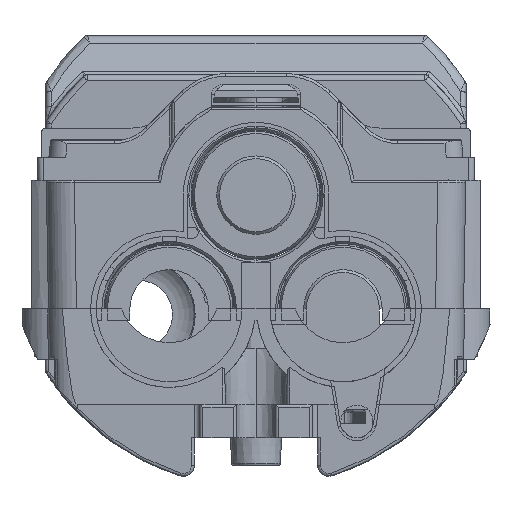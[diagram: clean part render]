
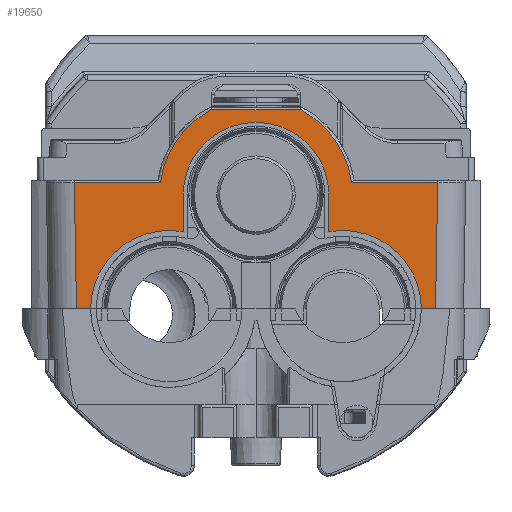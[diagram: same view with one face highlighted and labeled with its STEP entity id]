
A CAD part, left-side view. The second image highlights one B-rep face of the part: STEP entity #19650.
In plain terms, the highlighted planar face has unit normal (-1, 0, 0).
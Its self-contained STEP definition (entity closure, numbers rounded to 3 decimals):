
#1633 = CIRCLE ( 'NONE', #47211, 13. ) ;
#1666 = DIRECTION ( 'NONE',  ( 0., -1., 0. ) ) ;
#2320 = EDGE_CURVE ( 'NONE', #25156, #8274, #47895, .T. ) ;
#2332 = CARTESIAN_POINT ( 'NONE',  ( -325.383, -32.028, 34. ) ) ;
#3280 = CARTESIAN_POINT ( 'NONE',  ( -325.383, 29.5, 34. ) ) ;
#4267 = ORIENTED_EDGE ( 'NONE', *, *, #37524, .T. ) ;
#5288 = AXIS2_PLACEMENT_3D ( 'NONE', #26740, #59016, #31455 ) ;
#5761 = CARTESIAN_POINT ( 'NONE',  ( -325.383, -13., 47.775 ) ) ;
#6100 = LINE ( 'NONE', #6973, #54238 ) ;
#6867 = EDGE_CURVE ( 'NONE', #48511, #18327, #16153, .T. ) ;
#6973 = CARTESIAN_POINT ( 'NONE',  ( -325.383, -13., 54.3 ) ) ;
#7311 = CARTESIAN_POINT ( 'NONE',  ( -325.383, 13., 47.775 ) ) ;
#7689 = EDGE_CURVE ( 'NONE', #8274, #57398, #37474, .T. ) ;
#8274 = VERTEX_POINT ( 'NONE', #2332 ) ;
#8594 = LINE ( 'NONE', #30721, #44587 ) ;
#8894 = LINE ( 'NONE', #56791, #56962 ) ;
#9221 = EDGE_CURVE ( 'NONE', #57398, #48511, #8594, .T. ) ;
#9537 = VERTEX_POINT ( 'NONE', #51045 ) ;
#10774 = ORIENTED_EDGE ( 'NONE', *, *, #38698, .T. ) ;
#11297 = DIRECTION ( 'NONE',  ( 0., -0.017, 1. ) ) ;
#11607 = DIRECTION ( 'NONE',  ( -1., 0., 0. ) ) ;
#13104 = VECTOR ( 'NONE', #21498, 1000. ) ;
#15879 = DIRECTION ( 'NONE',  ( 0., -1., 0. ) ) ;
#16039 = VERTEX_POINT ( 'NONE', #5761 ) ;
#16153 = CIRCLE ( 'NONE', #20490, 17.2 ) ;
#16551 = CARTESIAN_POINT ( 'NONE',  ( -325.383, 0., 54.3 ) ) ;
#16983 = CARTESIAN_POINT ( 'NONE',  ( -325.383, 32.421, 56.5 ) ) ;
#17004 = DIRECTION ( 'NONE',  ( -1., 0., 0. ) ) ;
#17144 = ORIENTED_EDGE ( 'NONE', *, *, #35482, .F. ) ;
#17474 = EDGE_CURVE ( 'NONE', #9537, #27987, #33368, .T. ) ;
#18327 = VERTEX_POINT ( 'NONE', #38653 ) ;
#19650 = ADVANCED_FACE ( 'NONE', ( #34607 ), #34713, .F. ) ;
#20269 = AXIS2_PLACEMENT_3D ( 'NONE', #45119, #17004, #49687 ) ;
#20490 = AXIS2_PLACEMENT_3D ( 'NONE', #16551, #49234, #21334 ) ;
#21334 = DIRECTION ( 'NONE',  ( 0., 0., -1. ) ) ;
#21498 = DIRECTION ( 'NONE',  ( 0., -0.017, -1. ) ) ;
#21698 = DIRECTION ( 'NONE',  ( 0., 1., 0. ) ) ;
#23773 = VERTEX_POINT ( 'NONE', #52625 ) ;
#25156 = VERTEX_POINT ( 'NONE', #59286 ) ;
#25534 = DIRECTION ( 'NONE',  ( 1., 0., 0. ) ) ;
#25641 = LINE ( 'NONE', #33888, #48795 ) ;
#25687 = CARTESIAN_POINT ( 'NONE',  ( -325.383, -32.74, 74.782 ) ) ;
#25785 = LINE ( 'NONE', #53953, #13104 ) ;
#25836 = DIRECTION ( 'NONE',  ( 0., 0., 1. ) ) ;
#26085 = AXIS2_PLACEMENT_3D ( 'NONE', #39828, #11607, #44482 ) ;
#26514 = VERTEX_POINT ( 'NONE', #59081 ) ;
#26740 = CARTESIAN_POINT ( 'NONE',  ( -325.383, 15.5, 34. ) ) ;
#26745 = EDGE_LOOP ( 'NONE', ( #4267, #31286, #10774, #27428, #27969, #28756, #17144, #43918, #55170, #52196, #45353, #37859, #32812, #45555 ) ) ;
#27428 = ORIENTED_EDGE ( 'NONE', *, *, #17474, .T. ) ;
#27521 = DIRECTION ( 'NONE',  ( -1., 0., 0. ) ) ;
#27969 = ORIENTED_EDGE ( 'NONE', *, *, #48786, .F. ) ;
#27987 = VERTEX_POINT ( 'NONE', #3280 ) ;
#28384 = VERTEX_POINT ( 'NONE', #16983 ) ;
#28756 = ORIENTED_EDGE ( 'NONE', *, *, #46097, .F. ) ;
#30017 = CARTESIAN_POINT ( 'NONE',  ( -325.383, 37.029, 76. ) ) ;
#30721 = CARTESIAN_POINT ( 'NONE',  ( -325.383, 37.029, 56.5 ) ) ;
#31213 = EDGE_CURVE ( 'NONE', #25156, #16039, #34435, .T. ) ;
#31286 = ORIENTED_EDGE ( 'NONE', *, *, #49945, .T. ) ;
#31455 = DIRECTION ( 'NONE',  ( 0., -1., 0. ) ) ;
#32812 = ORIENTED_EDGE ( 'NONE', *, *, #6867, .T. ) ;
#33368 = LINE ( 'NONE', #48352, #44231 ) ;
#33888 = CARTESIAN_POINT ( 'NONE',  ( -325.383, 37.029, 56.5 ) ) ;
#33926 = DIRECTION ( 'NONE',  ( 0., 0., -1. ) ) ;
#34435 = CIRCLE ( 'NONE', #26085, 14. ) ;
#34607 = FACE_OUTER_BOUND ( 'NONE', #26745, .T. ) ;
#34713 = PLANE ( 'NONE',  #56627 ) ;
#35400 = DIRECTION ( 'NONE',  ( 0., 1., 0. ) ) ;
#35482 = EDGE_CURVE ( 'NONE', #51144, #26514, #1633, .T. ) ;
#35681 = VECTOR ( 'NONE', #15879, 1000. ) ;
#37474 = LINE ( 'NONE', #25687, #46859 ) ;
#37524 = EDGE_CURVE ( 'NONE', #23773, #48287, #45518, .T. ) ;
#37859 = ORIENTED_EDGE ( 'NONE', *, *, #9221, .T. ) ;
#38560 = DIRECTION ( 'NONE',  ( 0., 1., 0. ) ) ;
#38653 = CARTESIAN_POINT ( 'NONE',  ( -325.383, -8.05, 69.5 ) ) ;
#38698 = EDGE_CURVE ( 'NONE', #28384, #9537, #25785, .T. ) ;
#39468 = LINE ( 'NONE', #54117, #51656 ) ;
#39828 = CARTESIAN_POINT ( 'NONE',  ( -325.383, -15.5, 34. ) ) ;
#41356 = EDGE_CURVE ( 'NONE', #18327, #23773, #39468, .T. ) ;
#41759 = CIRCLE ( 'NONE', #5288, 14. ) ;
#41850 = CARTESIAN_POINT ( 'NONE',  ( -325.383, 17.059, 56.5 ) ) ;
#43437 = CARTESIAN_POINT ( 'NONE',  ( -325.383, -13., 54.3 ) ) ;
#43624 = EDGE_CURVE ( 'NONE', #16039, #51144, #6100, .T. ) ;
#43918 = ORIENTED_EDGE ( 'NONE', *, *, #43624, .F. ) ;
#44231 = VECTOR ( 'NONE', #1666, 1000. ) ;
#44482 = DIRECTION ( 'NONE',  ( 0., -1., 0. ) ) ;
#44587 = VECTOR ( 'NONE', #35400, 1000. ) ;
#45027 = CARTESIAN_POINT ( 'NONE',  ( -325.383, -32.421, 56.5 ) ) ;
#45119 = CARTESIAN_POINT ( 'NONE',  ( -325.383, 0., 54.3 ) ) ;
#45353 = ORIENTED_EDGE ( 'NONE', *, *, #7689, .T. ) ;
#45518 = CIRCLE ( 'NONE', #20269, 17.2 ) ;
#45555 = ORIENTED_EDGE ( 'NONE', *, *, #41356, .T. ) ;
#46097 = EDGE_CURVE ( 'NONE', #26514, #47519, #8894, .T. ) ;
#46859 = VECTOR ( 'NONE', #11297, 1000. ) ;
#47211 = AXIS2_PLACEMENT_3D ( 'NONE', #55114, #27521, #59811 ) ;
#47519 = VERTEX_POINT ( 'NONE', #7311 ) ;
#47787 = CARTESIAN_POINT ( 'NONE',  ( -325.383, -17.059, 56.5 ) ) ;
#47895 = LINE ( 'NONE', #52137, #35681 ) ;
#48287 = VERTEX_POINT ( 'NONE', #41850 ) ;
#48352 = CARTESIAN_POINT ( 'NONE',  ( -325.383, 37.029, 34. ) ) ;
#48511 = VERTEX_POINT ( 'NONE', #47787 ) ;
#48786 = EDGE_CURVE ( 'NONE', #47519, #27987, #41759, .T. ) ;
#48795 = VECTOR ( 'NONE', #38560, 1000. ) ;
#49234 = DIRECTION ( 'NONE',  ( -1., 0., 0. ) ) ;
#49687 = DIRECTION ( 'NONE',  ( 0., 0., -1. ) ) ;
#49945 = EDGE_CURVE ( 'NONE', #48287, #28384, #25641, .T. ) ;
#51045 = CARTESIAN_POINT ( 'NONE',  ( -325.383, 32.028, 34. ) ) ;
#51144 = VERTEX_POINT ( 'NONE', #43437 ) ;
#51656 = VECTOR ( 'NONE', #21698, 1000. ) ;
#52137 = CARTESIAN_POINT ( 'NONE',  ( -325.383, 37.029, 34. ) ) ;
#52196 = ORIENTED_EDGE ( 'NONE', *, *, #2320, .T. ) ;
#52625 = CARTESIAN_POINT ( 'NONE',  ( -325.383, 8.05, 69.5 ) ) ;
#53953 = CARTESIAN_POINT ( 'NONE',  ( -325.383, 32.762, 76.074 ) ) ;
#54117 = CARTESIAN_POINT ( 'NONE',  ( -325.383, 37.029, 69.5 ) ) ;
#54238 = VECTOR ( 'NONE', #25836, 1000. ) ;
#55114 = CARTESIAN_POINT ( 'NONE',  ( -325.383, 0., 54.3 ) ) ;
#55170 = ORIENTED_EDGE ( 'NONE', *, *, #31213, .F. ) ;
#56627 = AXIS2_PLACEMENT_3D ( 'NONE', #30017, #25534, #57796 ) ;
#56791 = CARTESIAN_POINT ( 'NONE',  ( -325.383, 13., 54.3 ) ) ;
#56962 = VECTOR ( 'NONE', #33926, 1000. ) ;
#57398 = VERTEX_POINT ( 'NONE', #45027 ) ;
#57796 = DIRECTION ( 'NONE',  ( 0., 0., -1. ) ) ;
#59016 = DIRECTION ( 'NONE',  ( -1., 0., 0. ) ) ;
#59081 = CARTESIAN_POINT ( 'NONE',  ( -325.383, 13., 54.3 ) ) ;
#59286 = CARTESIAN_POINT ( 'NONE',  ( -325.383, -29.5, 34. ) ) ;
#59811 = DIRECTION ( 'NONE',  ( 0., -1., 0. ) ) ;
